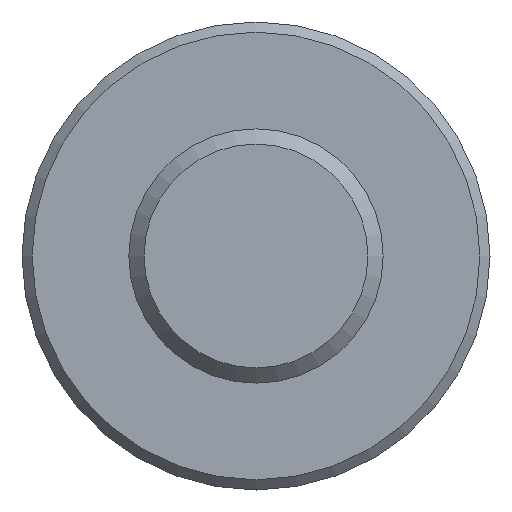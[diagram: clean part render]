
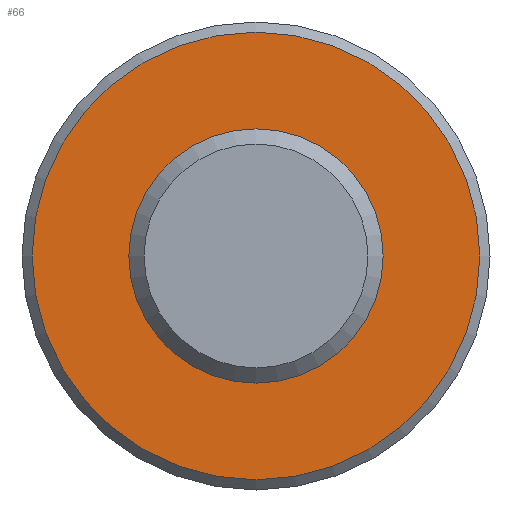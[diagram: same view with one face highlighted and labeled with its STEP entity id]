
A CAD part, front view. The second image highlights one B-rep face of the part: STEP entity #66.
In plain terms, the highlighted planar face has unit normal (0, -1, 0).
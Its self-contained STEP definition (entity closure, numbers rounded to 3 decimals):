
#1 = FACE_OUTER_BOUND ( 'NONE', #582, .T. ) ;
#56 = EDGE_CURVE ( 'NONE', #207, #207, #67, .T. ) ;
#57 = FACE_BOUND ( 'NONE', #574, .T. ) ;
#66 = ADVANCED_FACE ( 'NONE', ( #1, #57 ), #443, .F. ) ;
#67 = CIRCLE ( 'NONE', #280, 1.25 ) ;
#94 = VERTEX_POINT ( 'NONE', #274 ) ;
#111 = CIRCLE ( 'NONE', #132, 2.2 ) ;
#117 = ORIENTED_EDGE ( 'NONE', *, *, #563, .T. ) ;
#125 = DIRECTION ( 'NONE',  ( 0., 0., 1. ) ) ;
#132 = AXIS2_PLACEMENT_3D ( 'NONE', #353, #210, #268 ) ;
#144 = AXIS2_PLACEMENT_3D ( 'NONE', #169, #494, #125 ) ;
#169 = CARTESIAN_POINT ( 'NONE',  ( -2.3, 10., 0. ) ) ;
#207 = VERTEX_POINT ( 'NONE', #497 ) ;
#210 = DIRECTION ( 'NONE',  ( 0., -1., 0. ) ) ;
#261 = DIRECTION ( 'NONE',  ( 0., -1., 0. ) ) ;
#268 = DIRECTION ( 'NONE',  ( 0., 0., 1. ) ) ;
#274 = CARTESIAN_POINT ( 'NONE',  ( 0., 10., 2.2 ) ) ;
#280 = AXIS2_PLACEMENT_3D ( 'NONE', #358, #261, #403 ) ;
#353 = CARTESIAN_POINT ( 'NONE',  ( 0., 10., 0. ) ) ;
#358 = CARTESIAN_POINT ( 'NONE',  ( 0., 10., 0. ) ) ;
#380 = ORIENTED_EDGE ( 'NONE', *, *, #56, .F. ) ;
#403 = DIRECTION ( 'NONE',  ( 0., 0., -1. ) ) ;
#443 = PLANE ( 'NONE',  #144 ) ;
#494 = DIRECTION ( 'NONE',  ( 0., 1., 0. ) ) ;
#497 = CARTESIAN_POINT ( 'NONE',  ( 0., 10., -1.25 ) ) ;
#563 = EDGE_CURVE ( 'NONE', #94, #94, #111, .T. ) ;
#574 = EDGE_LOOP ( 'NONE', ( #380 ) ) ;
#582 = EDGE_LOOP ( 'NONE', ( #117 ) ) ;
